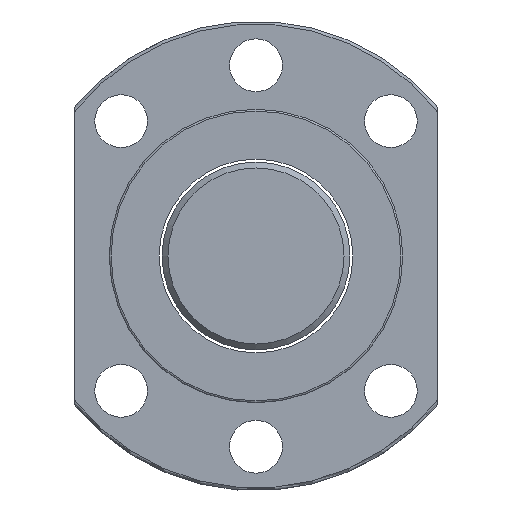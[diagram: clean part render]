
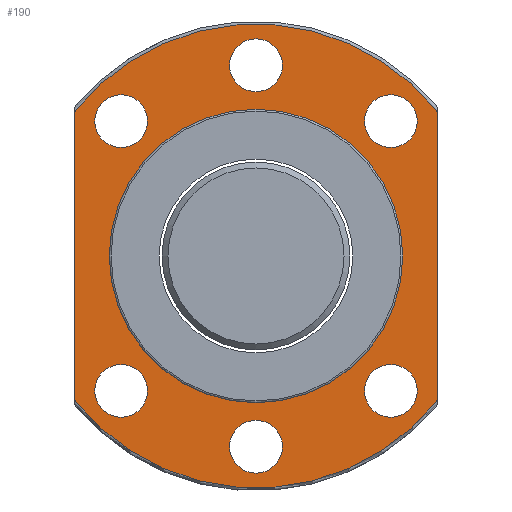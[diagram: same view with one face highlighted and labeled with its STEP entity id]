
A CAD part, left-side view. The second image highlights one B-rep face of the part: STEP entity #190.
In plain terms, the highlighted planar face has unit normal (-1, 0, 0).
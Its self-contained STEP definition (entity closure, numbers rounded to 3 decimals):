
#97=LINE('',#792,#105);
#98=LINE('',#794,#106);
#105=VECTOR('',#595,1.);
#106=VECTOR('',#596,1.);
#146=FACE_BOUND('',#245,.T.);
#147=FACE_BOUND('',#246,.T.);
#148=FACE_BOUND('',#247,.T.);
#149=FACE_BOUND('',#248,.T.);
#150=FACE_BOUND('',#249,.T.);
#151=FACE_BOUND('',#250,.T.);
#152=FACE_BOUND('',#251,.T.);
#190=ADVANCED_FACE('',(#224,#146,#147,#148,#149,#150,#151,#152),#211,.T.);
#211=PLANE('',#525);
#224=FACE_OUTER_BOUND('',#244,.T.);
#244=EDGE_LOOP('',(#309,#310,#311,#312));
#245=EDGE_LOOP('',(#313));
#246=EDGE_LOOP('',(#314));
#247=EDGE_LOOP('',(#315));
#248=EDGE_LOOP('',(#316));
#249=EDGE_LOOP('',(#317));
#250=EDGE_LOOP('',(#318));
#251=EDGE_LOOP('',(#319));
#309=ORIENTED_EDGE('',*,*,#436,.F.);
#310=ORIENTED_EDGE('',*,*,#435,.F.);
#311=ORIENTED_EDGE('',*,*,#437,.T.);
#312=ORIENTED_EDGE('',*,*,#438,.F.);
#313=ORIENTED_EDGE('',*,*,#439,.T.);
#314=ORIENTED_EDGE('',*,*,#440,.F.);
#315=ORIENTED_EDGE('',*,*,#441,.F.);
#316=ORIENTED_EDGE('',*,*,#442,.F.);
#317=ORIENTED_EDGE('',*,*,#443,.F.);
#318=ORIENTED_EDGE('',*,*,#444,.F.);
#319=ORIENTED_EDGE('',*,*,#445,.F.);
#393=VERTEX_POINT('',#769);
#394=VERTEX_POINT('',#789);
#395=VERTEX_POINT('',#793);
#396=VERTEX_POINT('',#795);
#397=VERTEX_POINT('',#798);
#398=VERTEX_POINT('',#800);
#399=VERTEX_POINT('',#802);
#400=VERTEX_POINT('',#804);
#401=VERTEX_POINT('',#806);
#402=VERTEX_POINT('',#808);
#403=VERTEX_POINT('',#810);
#435=EDGE_CURVE('',#394,#393,#476,.T.);
#436=EDGE_CURVE('',#393,#395,#97,.T.);
#437=EDGE_CURVE('',#394,#396,#98,.T.);
#438=EDGE_CURVE('',#395,#396,#477,.T.);
#439=EDGE_CURVE('',#397,#397,#478,.T.);
#440=EDGE_CURVE('',#398,#398,#479,.T.);
#441=EDGE_CURVE('',#399,#399,#480,.T.);
#442=EDGE_CURVE('',#400,#400,#481,.T.);
#443=EDGE_CURVE('',#401,#401,#482,.T.);
#444=EDGE_CURVE('',#402,#402,#483,.T.);
#445=EDGE_CURVE('',#403,#403,#484,.T.);
#476=CIRCLE('',#515,39.5);
#477=CIRCLE('',#517,39.5);
#478=CIRCLE('',#518,25.);
#479=CIRCLE('',#519,4.5);
#480=CIRCLE('',#520,4.5);
#481=CIRCLE('',#521,4.5);
#482=CIRCLE('',#522,4.5);
#483=CIRCLE('',#523,4.5);
#484=CIRCLE('',#524,4.5);
#515=AXIS2_PLACEMENT_3D('',#790,#591,#592);
#517=AXIS2_PLACEMENT_3D('',#796,#597,#598);
#518=AXIS2_PLACEMENT_3D('',#797,#599,#600);
#519=AXIS2_PLACEMENT_3D('',#799,#601,#602);
#520=AXIS2_PLACEMENT_3D('',#801,#603,#604);
#521=AXIS2_PLACEMENT_3D('',#803,#605,#606);
#522=AXIS2_PLACEMENT_3D('',#805,#607,#608);
#523=AXIS2_PLACEMENT_3D('',#807,#609,#610);
#524=AXIS2_PLACEMENT_3D('',#809,#611,#612);
#525=AXIS2_PLACEMENT_3D('',#811,#613,#614);
#591=DIRECTION('',(1.,0.,0.));
#592=DIRECTION('',(0.,1.,0.));
#595=DIRECTION('',(0.,0.,1.));
#596=DIRECTION('',(0.,0.,1.));
#597=DIRECTION('',(1.,0.,0.));
#598=DIRECTION('',(0.,1.,0.));
#599=DIRECTION('',(1.,0.,0.));
#600=DIRECTION('',(0.,1.,0.));
#601=DIRECTION('',(-1.,0.,0.));
#602=DIRECTION('',(0.,-1.,0.));
#603=DIRECTION('',(-1.,0.,0.));
#604=DIRECTION('',(0.,-1.,0.));
#605=DIRECTION('',(-1.,0.,0.));
#606=DIRECTION('',(0.,-1.,0.));
#607=DIRECTION('',(-1.,0.,0.));
#608=DIRECTION('',(0.,-1.,0.));
#609=DIRECTION('',(-1.,0.,0.));
#610=DIRECTION('',(0.,-1.,0.));
#611=DIRECTION('',(-1.,0.,0.));
#612=DIRECTION('',(0.,-1.,0.));
#613=DIRECTION('',(-1.,0.,0.));
#614=DIRECTION('',(0.,-1.,0.));
#769=CARTESIAN_POINT('',(-25.284,31.,-24.48));
#789=CARTESIAN_POINT('',(-25.284,-31.,-24.48));
#790=CARTESIAN_POINT('',(-25.284,0.,0.));
#792=CARTESIAN_POINT('',(-25.284,31.,0.));
#793=CARTESIAN_POINT('',(-25.284,31.,24.48));
#794=CARTESIAN_POINT('',(-25.284,-31.,0.));
#795=CARTESIAN_POINT('',(-25.284,-31.,24.48));
#796=CARTESIAN_POINT('',(-25.284,0.,0.));
#797=CARTESIAN_POINT('',(-25.284,0.,0.));
#798=CARTESIAN_POINT('',(-25.284,25.,0.));
#799=CARTESIAN_POINT('',(-25.284,22.981,22.981));
#800=CARTESIAN_POINT('',(-25.284,18.481,22.981));
#801=CARTESIAN_POINT('',(-25.284,-22.981,22.981));
#802=CARTESIAN_POINT('',(-25.284,-27.481,22.981));
#803=CARTESIAN_POINT('',(-25.284,-22.981,-22.981));
#804=CARTESIAN_POINT('',(-25.284,-27.481,-22.981));
#805=CARTESIAN_POINT('',(-25.284,22.981,-22.981));
#806=CARTESIAN_POINT('',(-25.284,18.481,-22.981));
#807=CARTESIAN_POINT('',(-25.284,0.,32.5));
#808=CARTESIAN_POINT('',(-25.284,-4.5,32.5));
#809=CARTESIAN_POINT('',(-25.284,0.,-32.5));
#810=CARTESIAN_POINT('',(-25.284,-4.5,-32.5));
#811=CARTESIAN_POINT('',(-25.284,32.25,0.));
